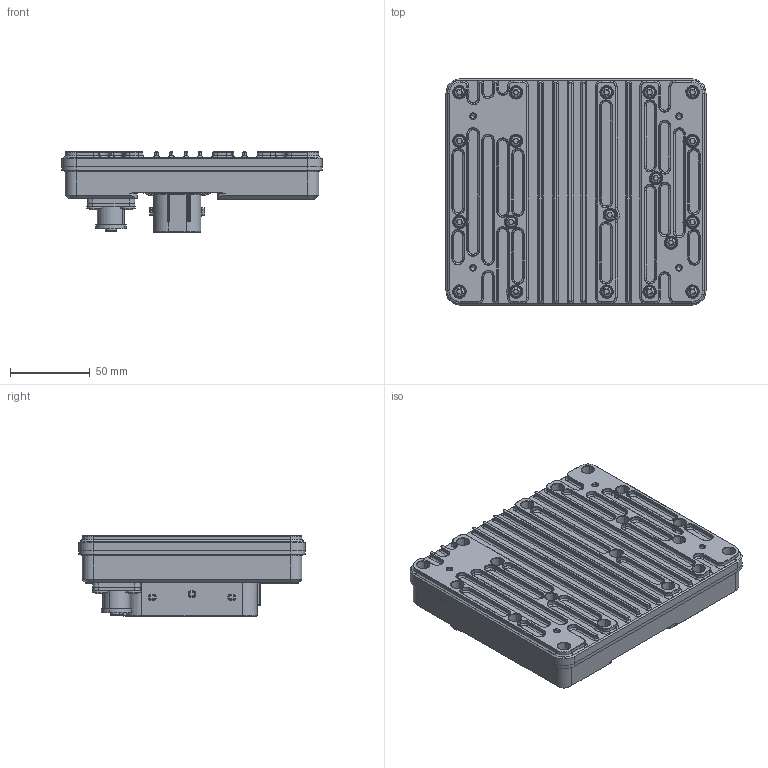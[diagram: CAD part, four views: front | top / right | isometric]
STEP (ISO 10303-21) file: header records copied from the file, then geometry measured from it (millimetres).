
FILE_DESCRIPTION(('CATIA V5 STEP Exchange'),'2;1');
FILE_NAME('T:\PDUX2B_Std_Lid\251121_sent_to_AA\PDUX2B Assembly.stp','2025-11-21T15:18:40+00:00',('none'),('none'),'CATIA Version 5 Release 19 SP 9 (IN-10)','CATIA V5 STEP AP214','none');
FILE_SCHEMA(('AUTOMOTIVE_DESIGN { 1 0 10303 214 1 1 1 1 }'));
Products named in the file (1): PDUX2B Assembly
Bounding box: 163.5 x 142.25 x 50.45 mm (x, y, z)
Volume: 70340.2 mm3; surface area: 139433.5 mm2
Topology: 30 solids, 185 shells, 4398 faces, 11799 edges, 7786 vertices
Faces by surface type: plane 2031, cylinder 1345, cone 473, torus 472, sphere 64, bspline 13
Entity records: 131170 total; most frequent: CARTESIAN_POINT 29940, ORIENTED_EDGE 21442, DIRECTION 17666, EDGE_CURVE 10773, AXIS2_PLACEMENT_3D 7302, VERTEX_POINT 6771, VECTOR 6474, LINE 6474
